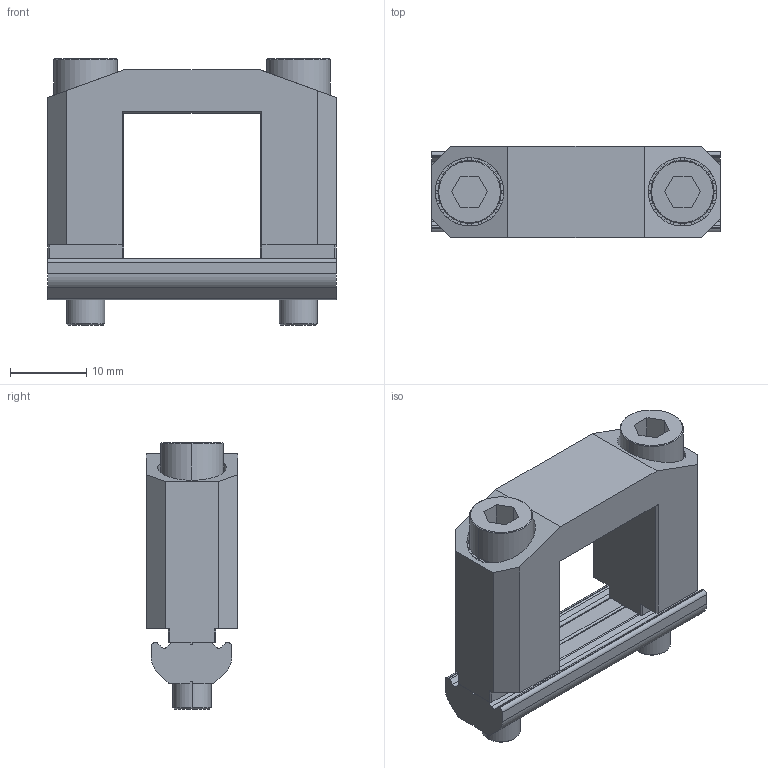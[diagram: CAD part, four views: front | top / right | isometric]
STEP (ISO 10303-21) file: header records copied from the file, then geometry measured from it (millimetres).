
FILE_DESCRIPTION (( 'STEP AP214' ), '1' );
FILE_NAME ('SMBB-1818.STEP', '2019-10-31T03:31:57', ( '微软用户' ), ( '微软中国' ), 'SwSTEP 2.0', 'SolidWorks 2016', '' );
FILE_SCHEMA (( 'AUTOMOTIVE_DESIGN' ));
Length unit declared in the file: millimetre
Products named in the file (5): PTN-M5P28; PTS-M5; PTC-M5L30; SMBB-1818
Assembly tree (6 placements, depth 2):
  SMBB-1818
    SMBB-1818
    PTC-M5L30  x2
    PTS-M5  x2
    PTN-M5P28
Bounding box: 38 x 12 x 35 mm (x, y, z)
Volume: 8423 mm3; surface area: 6610.4 mm2
Topology: 6 solids, 6 shells, 476 faces, 1366 edges, 900 vertices
Faces by surface type: plane 410, cylinder 46, cone 20
Entity records: 9852 total; most frequent: CARTESIAN_POINT 1869, ORIENTED_EDGE 1664, DIRECTION 1644, EDGE_CURVE 832, LINE 562, VECTOR 562, VERTEX_POINT 546, AXIS2_PLACEMENT_3D 541
